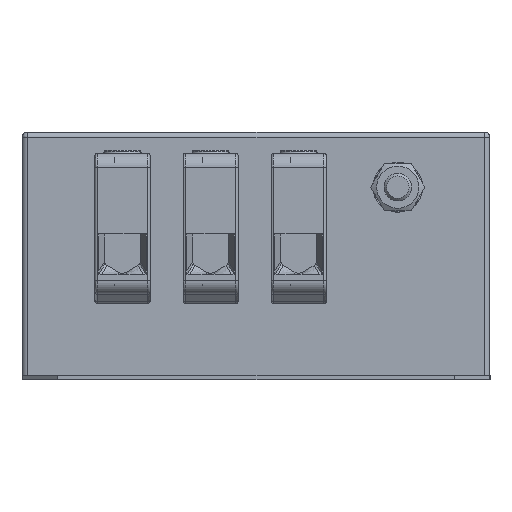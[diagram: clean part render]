
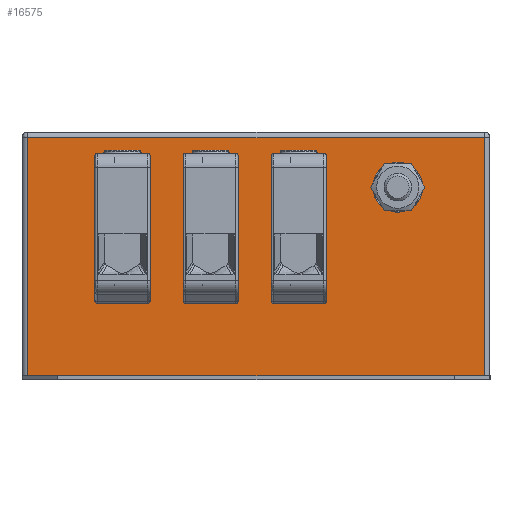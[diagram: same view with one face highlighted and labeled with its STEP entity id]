
A CAD part, left-side view. The second image highlights one B-rep face of the part: STEP entity #16575.
In plain terms, the highlighted planar face has unit normal (-1, 0, 0).
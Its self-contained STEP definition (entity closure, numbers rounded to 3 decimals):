
#652=CARTESIAN_POINT('',(-175.0,-5.5,-61.4));
#653=VERTEX_POINT('',#652);
#654=CARTESIAN_POINT('',(-175.0,-25.5,-61.4));
#655=VERTEX_POINT('',#654);
#656=CARTESIAN_POINT('',(-175.,-5.5,-61.4));
#657=DIRECTION('',(0.0,-1.0,0.0));
#658=VECTOR('',#657,20.0);
#659=LINE('',#656,#658);
#660=EDGE_CURVE('',#653,#655,#659,.T.);
#725=CARTESIAN_POINT('',(-175.,-25.5,-8.6));
#726=VERTEX_POINT('',#725);
#734=CARTESIAN_POINT('',(-175.,-5.5,-8.6));
#735=VERTEX_POINT('',#734);
#736=CARTESIAN_POINT('',(-175.,-5.5,-8.6));
#737=DIRECTION('',(0.0,-1.0,0.0));
#738=VECTOR('',#737,20.0);
#739=LINE('',#736,#738);
#740=EDGE_CURVE('',#735,#726,#739,.T.);
#1883=CARTESIAN_POINT('',(-175.,-25.5,-8.6));
#1884=DIRECTION('',(0.0,0.0,-1.0));
#1885=VECTOR('',#1884,52.8);
#1886=LINE('',#1883,#1885);
#1887=EDGE_CURVE('',#726,#655,#1886,.T.);
#1898=CARTESIAN_POINT('',(-175.,-5.5,-61.4));
#1899=DIRECTION('',(0.0,0.0,1.0));
#1900=VECTOR('',#1899,52.8);
#1901=LINE('',#1898,#1900);
#1902=EDGE_CURVE('',#653,#735,#1901,.T.);
#3334=CARTESIAN_POINT('',(-175.0,26.5,-61.4));
#3335=VERTEX_POINT('',#3334);
#3336=CARTESIAN_POINT('',(-175.0,6.5,-61.4));
#3337=VERTEX_POINT('',#3336);
#3338=CARTESIAN_POINT('',(-175.0,26.5,-61.4));
#3339=DIRECTION('',(0.0,-1.0,0.0));
#3340=VECTOR('',#3339,20.0);
#3341=LINE('',#3338,#3340);
#3342=EDGE_CURVE('',#3335,#3337,#3341,.T.);
#3407=CARTESIAN_POINT('',(-175.,6.5,-8.6));
#3408=VERTEX_POINT('',#3407);
#3416=CARTESIAN_POINT('',(-175.,26.5,-8.6));
#3417=VERTEX_POINT('',#3416);
#3418=CARTESIAN_POINT('',(-175.0,26.5,-8.6));
#3419=DIRECTION('',(0.0,-1.0,0.0));
#3420=VECTOR('',#3419,20.0);
#3421=LINE('',#3418,#3420);
#3422=EDGE_CURVE('',#3417,#3408,#3421,.T.);
#4565=CARTESIAN_POINT('',(-175.0,6.5,-8.6));
#4566=DIRECTION('',(0.0,0.0,-1.0));
#4567=VECTOR('',#4566,52.8);
#4568=LINE('',#4565,#4567);
#4569=EDGE_CURVE('',#3408,#3337,#4568,.T.);
#4580=CARTESIAN_POINT('',(-175.0,26.5,-61.4));
#4581=DIRECTION('',(0.0,0.0,1.0));
#4582=VECTOR('',#4581,52.8);
#4583=LINE('',#4580,#4582);
#4584=EDGE_CURVE('',#3335,#3417,#4583,.T.);
#6016=CARTESIAN_POINT('',(-175.0,58.5,-61.4));
#6017=VERTEX_POINT('',#6016);
#6018=CARTESIAN_POINT('',(-175.0,38.5,-61.4));
#6019=VERTEX_POINT('',#6018);
#6020=CARTESIAN_POINT('',(-175.0,58.5,-61.4));
#6021=DIRECTION('',(0.0,-1.0,0.0));
#6022=VECTOR('',#6021,20.0);
#6023=LINE('',#6020,#6022);
#6024=EDGE_CURVE('',#6017,#6019,#6023,.T.);
#6089=CARTESIAN_POINT('',(-175.,38.5,-8.6));
#6090=VERTEX_POINT('',#6089);
#6098=CARTESIAN_POINT('',(-175.,58.5,-8.6));
#6099=VERTEX_POINT('',#6098);
#6100=CARTESIAN_POINT('',(-175.0,58.5,-8.6));
#6101=DIRECTION('',(0.0,-1.0,0.0));
#6102=VECTOR('',#6101,20.0);
#6103=LINE('',#6100,#6102);
#6104=EDGE_CURVE('',#6099,#6090,#6103,.T.);
#7247=CARTESIAN_POINT('',(-175.0,38.5,-8.6));
#7248=DIRECTION('',(0.0,0.0,-1.0));
#7249=VECTOR('',#7248,52.8);
#7250=LINE('',#7247,#7249);
#7251=EDGE_CURVE('',#6090,#6019,#7250,.T.);
#7262=CARTESIAN_POINT('',(-175.0,58.5,-61.4));
#7263=DIRECTION('',(0.0,0.0,1.0));
#7264=VECTOR('',#7263,52.8);
#7265=LINE('',#7262,#7264);
#7266=EDGE_CURVE('',#6017,#6099,#7265,.T.);
#8217=CARTESIAN_POINT('',(-175.0,-51.5,-28.25));
#8218=VERTEX_POINT('',#8217);
#8219=CARTESIAN_POINT('',(-175.0,-51.5,-20.0));
#8220=DIRECTION('',(1.0,0.0,0.0));
#8221=DIRECTION('',(0.0,0.0,-1.0));
#8222=AXIS2_PLACEMENT_3D('',#8219,#8220,#8221);
#8223=CIRCLE('',#8222,8.25);
#8224=EDGE_CURVE('',#8218,#8218,#8223,.T.);
#16451=CARTESIAN_POINT('',(-175.0,83.0,-88.5));
#16452=VERTEX_POINT('',#16451);
#16460=CARTESIAN_POINT('',(-175.0,83.0,-2.0));
#16461=VERTEX_POINT('',#16460);
#16462=CARTESIAN_POINT('',(-175.0,83.0,-88.5));
#16463=DIRECTION('',(0.0,0.0,1.0));
#16464=VECTOR('',#16463,86.5);
#16465=LINE('',#16462,#16464);
#16466=EDGE_CURVE('',#16452,#16461,#16465,.T.);
#16507=CARTESIAN_POINT('',(-175.,-83.0,-2.0));
#16508=VERTEX_POINT('',#16507);
#16509=CARTESIAN_POINT('',(-175.0,83.,-2.0));
#16510=DIRECTION('',(0.0,-1.0,0.0));
#16511=VECTOR('',#16510,166.0);
#16512=LINE('',#16509,#16511);
#16513=EDGE_CURVE('',#16461,#16508,#16512,.T.);
#16531=CARTESIAN_POINT('',(-175.0,85.0,0.0));
#16532=DIRECTION('',(-1.0,0.0,0.0));
#16533=DIRECTION('',(0.0,0.0,1.0));
#16534=AXIS2_PLACEMENT_3D('',#16531,#16532,#16533);
#16535=PLANE('',#16534);
#16536=ORIENTED_EDGE('',*,*,#16466,.F.);
#16537=CARTESIAN_POINT('',(-175.,-83.0,-88.5));
#16538=VERTEX_POINT('',#16537);
#16539=CARTESIAN_POINT('',(-175.0,83.0,-88.5));
#16540=DIRECTION('',(0.0,-1.0,0.0));
#16541=VECTOR('',#16540,166.0);
#16542=LINE('',#16539,#16541);
#16543=EDGE_CURVE('',#16452,#16538,#16542,.T.);
#16544=ORIENTED_EDGE('',*,*,#16543,.T.);
#16545=CARTESIAN_POINT('',(-175.,-83.0,-2.0));
#16546=DIRECTION('',(0.0,0.0,-1.0));
#16547=VECTOR('',#16546,86.5);
#16548=LINE('',#16545,#16547);
#16549=EDGE_CURVE('',#16508,#16538,#16548,.T.);
#16550=ORIENTED_EDGE('',*,*,#16549,.F.);
#16551=ORIENTED_EDGE('',*,*,#16513,.F.);
#16552=EDGE_LOOP('',(#16536,#16544,#16550,#16551));
#16553=FACE_OUTER_BOUND('',#16552,.T.);
#16554=ORIENTED_EDGE('',*,*,#740,.T.);
#16555=ORIENTED_EDGE('',*,*,#1887,.T.);
#16556=ORIENTED_EDGE('',*,*,#660,.F.);
#16557=ORIENTED_EDGE('',*,*,#1902,.T.);
#16558=EDGE_LOOP('',(#16554,#16555,#16556,#16557));
#16559=FACE_BOUND('',#16558,.T.);
#16560=ORIENTED_EDGE('',*,*,#3422,.T.);
#16561=ORIENTED_EDGE('',*,*,#4569,.T.);
#16562=ORIENTED_EDGE('',*,*,#3342,.F.);
#16563=ORIENTED_EDGE('',*,*,#4584,.T.);
#16564=EDGE_LOOP('',(#16560,#16561,#16562,#16563));
#16565=FACE_BOUND('',#16564,.T.);
#16566=ORIENTED_EDGE('',*,*,#6104,.T.);
#16567=ORIENTED_EDGE('',*,*,#7251,.T.);
#16568=ORIENTED_EDGE('',*,*,#6024,.F.);
#16569=ORIENTED_EDGE('',*,*,#7266,.T.);
#16570=EDGE_LOOP('',(#16566,#16567,#16568,#16569));
#16571=FACE_BOUND('',#16570,.T.);
#16572=ORIENTED_EDGE('',*,*,#8224,.T.);
#16573=EDGE_LOOP('',(#16572));
#16574=FACE_BOUND('',#16573,.T.);
#16575=ADVANCED_FACE('',(#16553,#16559,#16565,#16571,#16574),#16535,.T.);
